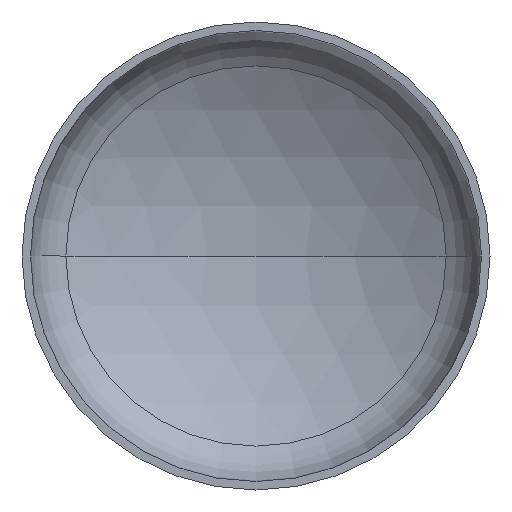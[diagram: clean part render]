
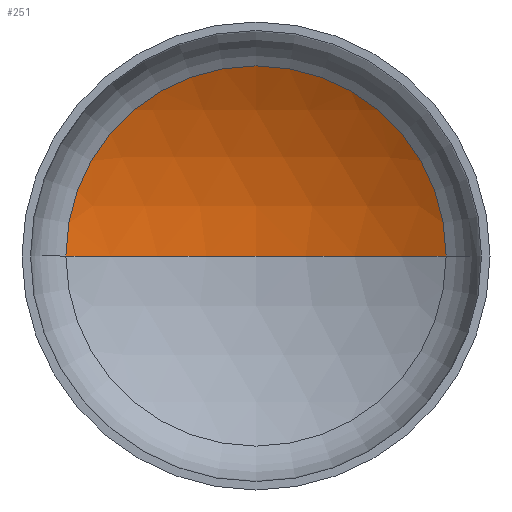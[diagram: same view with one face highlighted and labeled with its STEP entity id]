
A CAD part, front view. The second image highlights one B-rep face of the part: STEP entity #251.
In plain terms, the highlighted spherical face has radius 4400 mm.
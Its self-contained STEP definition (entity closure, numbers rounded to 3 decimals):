
#98 = SPHERICAL_SURFACE ( 'NONE', #293, 4400. ) ;
#99 = FACE_OUTER_BOUND ( 'NONE', #220, .T. ) ;
#107 = CIRCLE ( 'NONE', #218, 4400. ) ;
#111 = CIRCLE ( 'NONE', #311, 2234.037 ) ;
#117 = CIRCLE ( 'NONE', #176, 4400. ) ;
#176 = AXIS2_PLACEMENT_3D ( 'NONE', #296, #294, #292 ) ;
#178 = VERTEX_POINT ( 'NONE', #388 ) ;
#199 = CARTESIAN_POINT ( 'NONE',  ( 0., 1437.321, 0. ) ) ;
#203 = CARTESIAN_POINT ( 'NONE',  ( 2234.037, 827.978, 0. ) ) ;
#209 = DIRECTION ( 'NONE',  ( 1., 0., 0. ) ) ;
#210 = DIRECTION ( 'NONE',  ( 0., -1., 0. ) ) ;
#212 = CARTESIAN_POINT ( 'NONE',  ( 0., 827.978, 0. ) ) ;
#218 = AXIS2_PLACEMENT_3D ( 'NONE', #253, #243, #242 ) ;
#220 = EDGE_LOOP ( 'NONE', ( #225, #256, #406 ) ) ;
#224 = EDGE_CURVE ( 'NONE', #281, #178, #117, .T. ) ;
#225 = ORIENTED_EDGE ( 'NONE', *, *, #224, .F. ) ;
#239 = DIRECTION ( 'NONE',  ( -1., 0., 0. ) ) ;
#242 = DIRECTION ( 'NONE',  ( -1., 0., 0. ) ) ;
#243 = DIRECTION ( 'NONE',  ( 0., 0., -1. ) ) ;
#249 = EDGE_CURVE ( 'NONE', #281, #270, #107, .T. ) ;
#251 = ADVANCED_FACE ( 'NONE', ( #99 ), #98, .F. ) ;
#253 = CARTESIAN_POINT ( 'NONE',  ( 0., -2962.679, 0. ) ) ;
#256 = ORIENTED_EDGE ( 'NONE', *, *, #249, .T. ) ;
#257 = DIRECTION ( 'NONE',  ( 0., 0., -1. ) ) ;
#260 = CARTESIAN_POINT ( 'NONE',  ( 0., -2962.679, 0. ) ) ;
#265 = EDGE_CURVE ( 'NONE', #270, #178, #111, .T. ) ;
#270 = VERTEX_POINT ( 'NONE', #203 ) ;
#281 = VERTEX_POINT ( 'NONE', #199 ) ;
#292 = DIRECTION ( 'NONE',  ( 1., 0., 0. ) ) ;
#293 = AXIS2_PLACEMENT_3D ( 'NONE', #260, #257, #239 ) ;
#294 = DIRECTION ( 'NONE',  ( 0., 0., 1. ) ) ;
#296 = CARTESIAN_POINT ( 'NONE',  ( 0., -2962.679, 0. ) ) ;
#311 = AXIS2_PLACEMENT_3D ( 'NONE', #212, #210, #209 ) ;
#388 = CARTESIAN_POINT ( 'NONE',  ( -2234.037, 827.978, 0. ) ) ;
#406 = ORIENTED_EDGE ( 'NONE', *, *, #265, .T. ) ;
